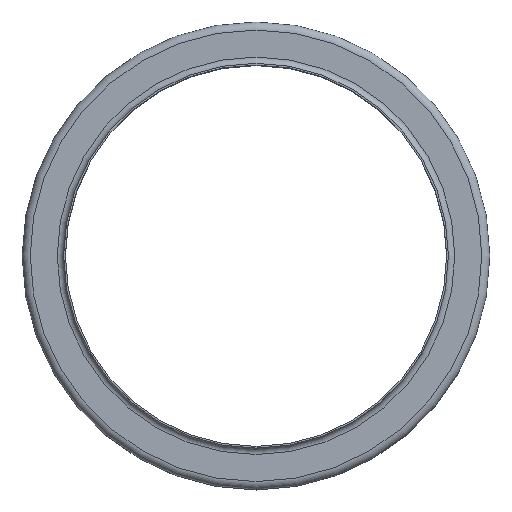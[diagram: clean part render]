
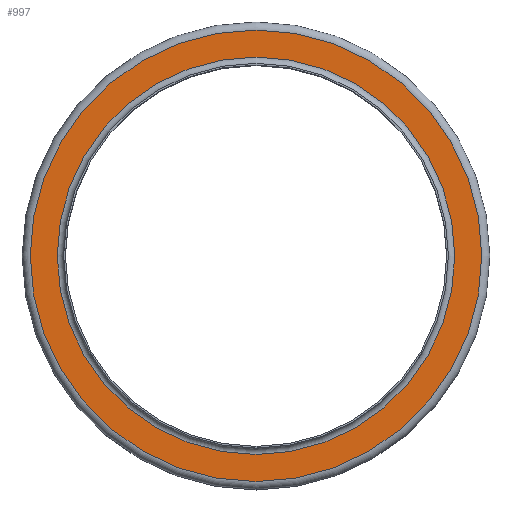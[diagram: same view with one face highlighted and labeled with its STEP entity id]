
A CAD part, top view. The second image highlights one B-rep face of the part: STEP entity #997.
In plain terms, the highlighted planar face has unit normal (0, 0, 1).
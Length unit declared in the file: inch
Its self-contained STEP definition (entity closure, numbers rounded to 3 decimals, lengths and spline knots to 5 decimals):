
#95=FACE_BOUND('',#269,.T.);
#162=FACE_OUTER_BOUND('',#268,.T.);
#268=EDGE_LOOP('',(#769));
#269=EDGE_LOOP('',(#770));
#382=CIRCLE('',#1186,3.4525);
#383=CIRCLE('',#1188,3.9225);
#463=VERTEX_POINT('',#1810);
#464=VERTEX_POINT('',#1814);
#568=EDGE_CURVE('',#463,#463,#382,.T.);
#569=EDGE_CURVE('',#464,#464,#383,.T.);
#769=ORIENTED_EDGE('',*,*,#569,.F.);
#770=ORIENTED_EDGE('',*,*,#568,.T.);
#851=PLANE('',#1187);
#997=ADVANCED_FACE('',(#162,#95),#851,.T.);
#1186=AXIS2_PLACEMENT_3D('',#1812,#1522,#1523);
#1187=AXIS2_PLACEMENT_3D('',#1813,#1524,#1525);
#1188=AXIS2_PLACEMENT_3D('',#1815,#1526,#1527);
#1522=DIRECTION('center_axis',(0.,0.,-1.));
#1523=DIRECTION('ref_axis',(1.,0.,0.));
#1524=DIRECTION('center_axis',(0.,0.,1.));
#1525=DIRECTION('ref_axis',(1.,0.,0.));
#1526=DIRECTION('center_axis',(0.,0.,-1.));
#1527=DIRECTION('ref_axis',(1.,0.,0.));
#1810=CARTESIAN_POINT('',(3.4525,0.,-0.11));
#1812=CARTESIAN_POINT('Origin',(0.,0.,-0.11));
#1813=CARTESIAN_POINT('Origin',(0.,3.9225,-0.11));
#1814=CARTESIAN_POINT('',(3.9225,0.,-0.11));
#1815=CARTESIAN_POINT('Origin',(0.,0.,-0.11));
